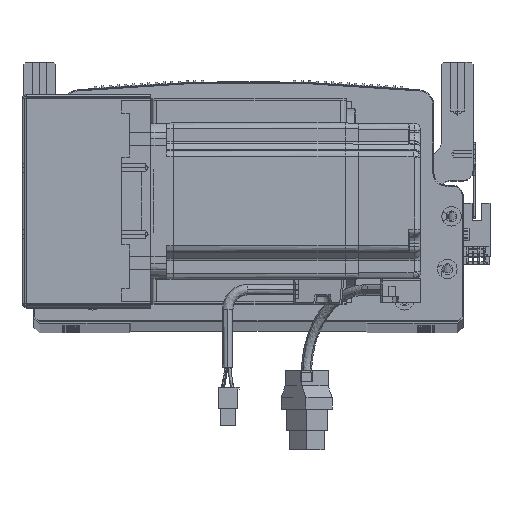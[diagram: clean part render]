
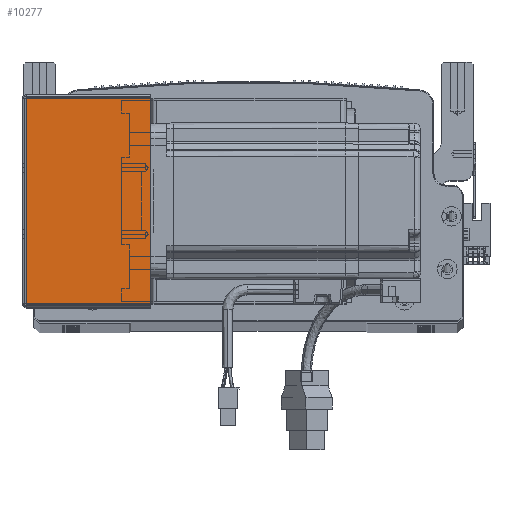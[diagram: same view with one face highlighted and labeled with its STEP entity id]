
A CAD part, top view. The second image highlights one B-rep face of the part: STEP entity #10277.
In plain terms, the highlighted planar face has unit normal (0, 0, 1) as drawn and (0, 0, -1) by its records, which use the part's own axes.
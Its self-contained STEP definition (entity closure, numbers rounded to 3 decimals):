
#1103 = CARTESIAN_POINT ( 'NONE',  ( 0., 0., -205.5 ) ) ;
#8857 = EDGE_CURVE ( 'NONE', #59199, #76675, #74569, .T. ) ;
#9946 = VECTOR ( 'NONE', #17343, 1000. ) ;
#10277 = ADVANCED_FACE ( 'NONE', ( #50942 ), #38295, .F. ) ;
#12982 = CARTESIAN_POINT ( 'NONE',  ( 64.5, 0.707, -205.5 ) ) ;
#17343 = DIRECTION ( 'NONE',  ( 0., -1., 0. ) ) ;
#20395 = CARTESIAN_POINT ( 'NONE',  ( 0., 0.707, -205.5 ) ) ;
#20405 = VECTOR ( 'NONE', #35073, 1000. ) ;
#23326 = AXIS2_PLACEMENT_3D ( 'NONE', #1103, #30817, #83004 ) ;
#25187 = DIRECTION ( 'NONE',  ( 1., 0., 0. ) ) ;
#25558 = VECTOR ( 'NONE', #27904, 1000. ) ;
#27904 = DIRECTION ( 'NONE',  ( 0., -1., 0. ) ) ;
#28450 = CARTESIAN_POINT ( 'NONE',  ( 0.737, 105.293, -205.5 ) ) ;
#30302 = ORIENTED_EDGE ( 'NONE', *, *, #77160, .F. ) ;
#30817 = DIRECTION ( 'NONE',  ( 0., 0., 1. ) ) ;
#33174 = VERTEX_POINT ( 'NONE', #28450 ) ;
#33712 = ORIENTED_EDGE ( 'NONE', *, *, #8857, .T. ) ;
#33932 = LINE ( 'NONE', #55512, #40951 ) ;
#35073 = DIRECTION ( 'NONE',  ( 1., 0., 0. ) ) ;
#38295 = PLANE ( 'NONE',  #23326 ) ;
#40951 = VECTOR ( 'NONE', #25187, 1000. ) ;
#50942 = FACE_OUTER_BOUND ( 'NONE', #95502, .T. ) ;
#55512 = CARTESIAN_POINT ( 'NONE',  ( 0., 105.293, -205.5 ) ) ;
#56758 = EDGE_CURVE ( 'NONE', #33174, #59199, #33932, .T. ) ;
#56967 = CARTESIAN_POINT ( 'NONE',  ( 64.5, 0., -205.5 ) ) ;
#59199 = VERTEX_POINT ( 'NONE', #82480 ) ;
#65558 = EDGE_CURVE ( 'NONE', #33174, #73082, #75269, .T. ) ;
#67129 = LINE ( 'NONE', #20395, #20405 ) ;
#73082 = VERTEX_POINT ( 'NONE', #77511 ) ;
#74569 = LINE ( 'NONE', #56967, #25558 ) ;
#75269 = LINE ( 'NONE', #84204, #9946 ) ;
#75559 = ORIENTED_EDGE ( 'NONE', *, *, #56758, .T. ) ;
#76675 = VERTEX_POINT ( 'NONE', #12982 ) ;
#77160 = EDGE_CURVE ( 'NONE', #73082, #76675, #67129, .T. ) ;
#77511 = CARTESIAN_POINT ( 'NONE',  ( 0.737, 0.707, -205.5 ) ) ;
#79251 = ORIENTED_EDGE ( 'NONE', *, *, #65558, .F. ) ;
#82480 = CARTESIAN_POINT ( 'NONE',  ( 64.5, 105.293, -205.5 ) ) ;
#83004 = DIRECTION ( 'NONE',  ( 1., 0., 0. ) ) ;
#84204 = CARTESIAN_POINT ( 'NONE',  ( 0.737, 0., -205.5 ) ) ;
#95502 = EDGE_LOOP ( 'NONE', ( #79251, #75559, #33712, #30302 ) ) ;
